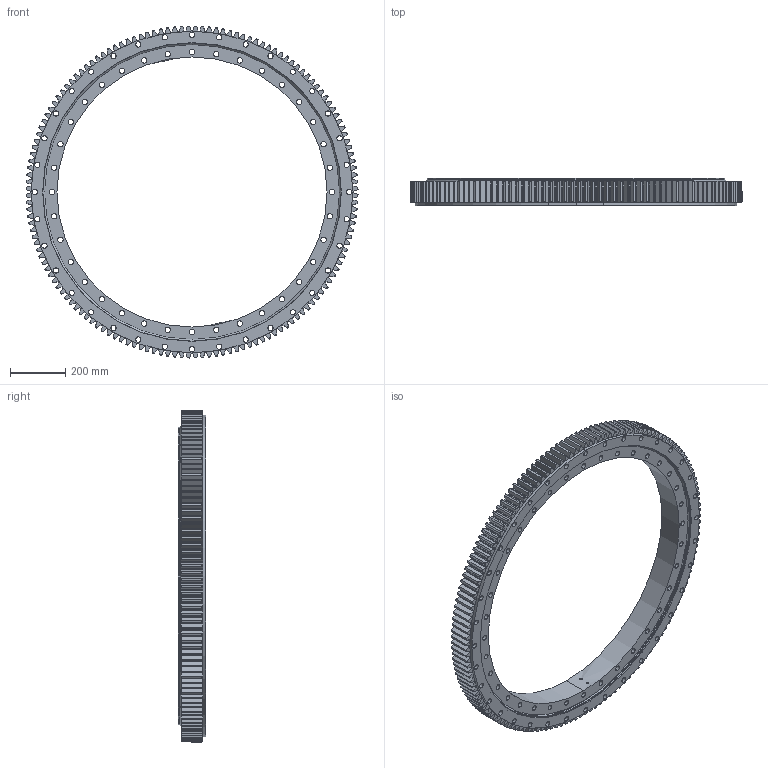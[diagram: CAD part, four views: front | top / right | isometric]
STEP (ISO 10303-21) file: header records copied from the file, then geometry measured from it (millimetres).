
FILE_DESCRIPTION (( 'STEP AP214' ), '1' );
FILE_NAME ('B2222-2-1200AA.STEP', '2022-11-28T14:41:10', ( '' ), ( '' ), 'SwSTEP 2.0', 'SolidWorks 2020', '' );
FILE_SCHEMA (( 'AUTOMOTIVE_DESIGN' ));
Length unit declared in the file: millimetre
Products named in the file (1): B2222-2-1200AA
Bounding box: 1199.85 x 98 x 1199.85 mm (x, y, z)
Volume: 28289360.9 mm3; surface area: 2814247.3 mm2
Topology: 4 solids, 4 shells, 1241 faces, 3668 edges, 2444 vertices
Faces by surface type: cylinder 328, plane 313, cone 304, bspline 296
Entity records: 43531 total; most frequent: CARTESIAN_POINT 12314, ORIENTED_EDGE 7336, DIRECTION 5308, EDGE_CURVE 3668, VERTEX_POINT 2444, AXIS2_PLACEMENT_3D 1894, LINE 1520, VECTOR 1520
